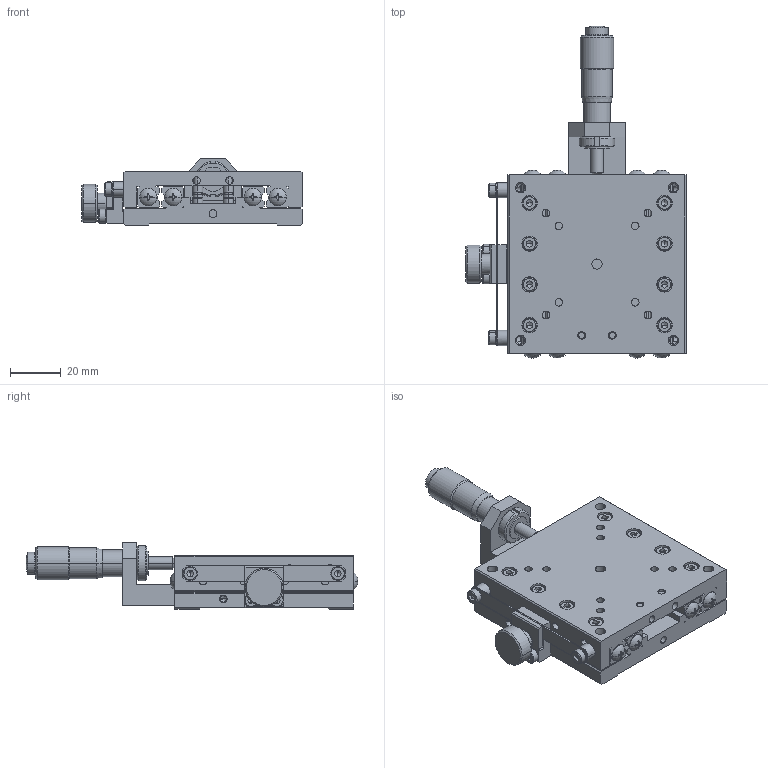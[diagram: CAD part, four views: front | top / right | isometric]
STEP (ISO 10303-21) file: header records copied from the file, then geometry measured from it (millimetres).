
FILE_DESCRIPTION (( 'STEP AP214' ), '1' );
FILE_NAME ('XM07A-C1.STEP', '2009-05-11T05:27:43', ( ' ' ), ( ' ' ), 'SwSTEP 2.0', 'SolidWorks 2008', '' );
FILE_SCHEMA (( 'AUTOMOTIVE_DESIGN' ));
Length unit declared in the file: millimetre
Products named in the file (5): 001490-1011(3D); 001490-1011(3D)-Part-2; 001490-1011(3D)-Part-1; 001490-1023(3D); XM07A-C1
Assembly tree (4 placements, depth 3):
  XM07A-C1
    001490-1011(3D)
      001490-1011(3D)-Part-1
      001490-1011(3D)-Part-2
    001490-1023(3D)
Bounding box: 86.5 x 130.37 x 26 mm (x, y, z)
Volume: 95820.4 mm3; surface area: 49418 mm2
Topology: 3 solids, 39 shells, 1698 faces, 4062 edges, 2442 vertices
Faces by surface type: plane 771, cylinder 539, cone 352, sphere 20, torus 16
Entity records: 49419 total; most frequent: CARTESIAN_POINT 9157, DIRECTION 8956, ORIENTED_EDGE 7956, EDGE_CURVE 3978, AXIS2_PLACEMENT_3D 3443, VERTEX_POINT 2442, VECTOR 2070, LINE 2070
